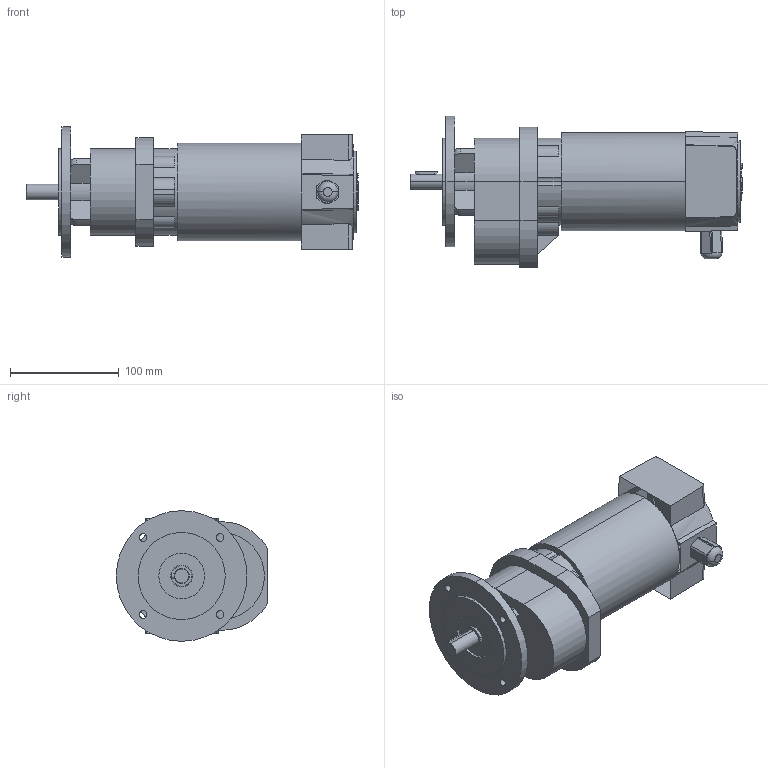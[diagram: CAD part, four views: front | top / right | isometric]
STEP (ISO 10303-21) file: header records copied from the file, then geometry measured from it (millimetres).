
FILE_DESCRIPTION(('OneSpaceDesigner STEP Export'),'2;1');
FILE_NAME('EPG21_SF30.stp','2008-07-17T10:24:03',(''),(''),'OneSpace Designer STEP processor (Jan. 2003) for AP214(CD)(Solid Model)','OneSpace Designer 12.01D 09-Jul-2004 (C) CoCreate Software GmbH','');
FILE_SCHEMA(('AUTOMOTIVE_DESIGN_CC2 {1 2 10303 214 -1 1 5 1}'));
Length unit declared in the file: millimetre
Products named in the file (2): EPG21_SF30
Assembly tree (1 placements, depth 2):
  EPG21_SF30
    EPG21_SF30
Bounding box: 305 x 139 x 120 mm (x, y, z)
Volume: 1904217 mm3; surface area: 134428.4 mm2
Topology: 1 solids, 1 shells, 134 faces, 351 edges, 233 vertices
Faces by surface type: plane 61, cylinder 61, torus 6, cone 4, bspline 2
Entity records: 6711 total; most frequent: CARTESIAN_POINT 3540, ORIENTED_EDGE 702, DIRECTION 580, EDGE_CURVE 351, VERTEX_POINT 233, AXIS2_PLACEMENT_3D 203, VECTOR 174, LINE 174
